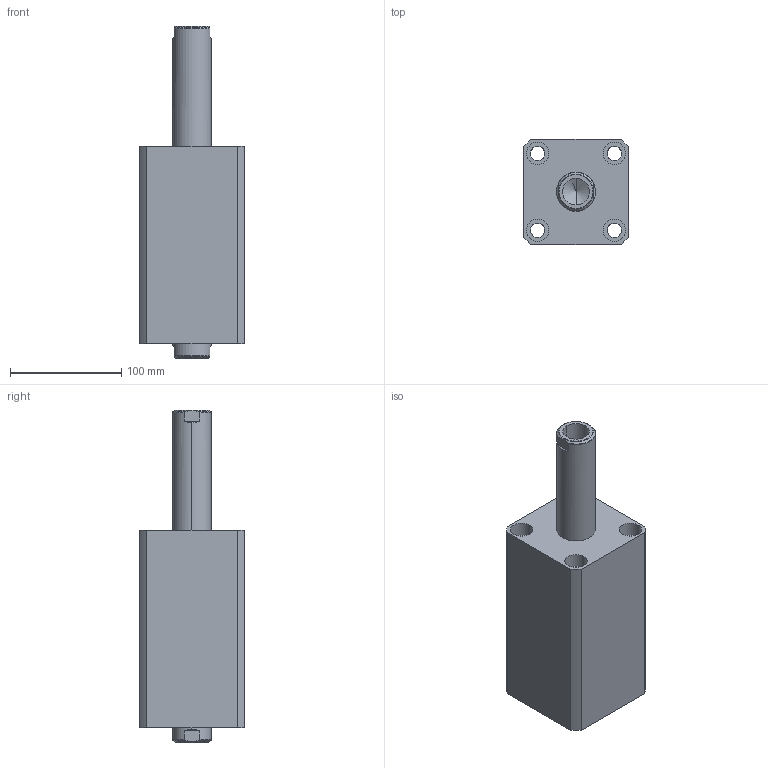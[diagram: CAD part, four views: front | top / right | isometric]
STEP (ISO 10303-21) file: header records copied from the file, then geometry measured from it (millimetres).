
FILE_DESCRIPTION (( 'STEP AP214' ), '1' );
FILE_NAME ('chtb-sw63x95n_asm.STEP', '2018-05-12T02:23:03', ( 'Windows' ), ( 'Microsoft' ), 'SwSTEP 2.0', 'SolidWorks 2015', '' );
FILE_SCHEMA (( 'AUTOMOTIVE_DESIGN' ));
Length unit declared in the file: millimetre
Products named in the file (4): CHTB-SW63X95NHSG; CHTB-SW63X95NBT; CHTB-63QG; chtb-sw63x95n_asm
Assembly tree (3 placements, depth 2):
  chtb-sw63x95n_asm
    CHTB-63QG
    CHTB-SW63X95NBT
    CHTB-SW63X95NHSG
Bounding box: 94 x 94 x 298 mm (x, y, z)
Volume: 1322319.7 mm3; surface area: 208540.7 mm2
Topology: 3 solids, 3 shells, 184 faces, 515 edges, 349 vertices
Faces by surface type: cylinder 106, plane 38, cone 16, bspline 12, torus 12
Entity records: 18385 total; most frequent: CARTESIAN_POINT 13775, ORIENTED_EDGE 1014, DIRECTION 814, EDGE_CURVE 507, VERTEX_POINT 349, AXIS2_PLACEMENT_3D 331, EDGE_LOOP 220, ADVANCED_FACE 184
